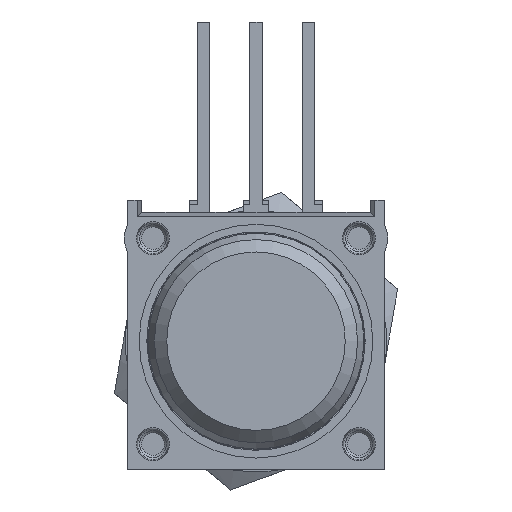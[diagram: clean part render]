
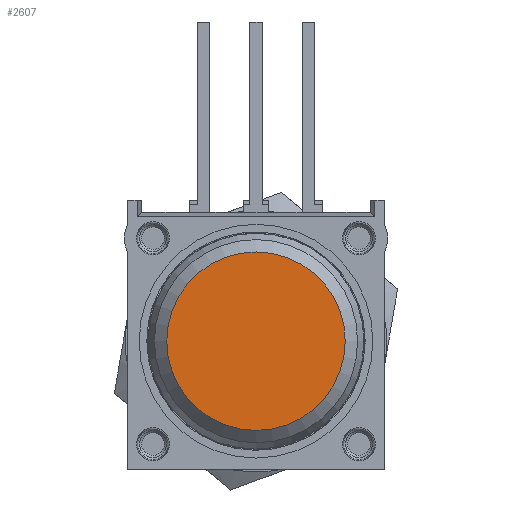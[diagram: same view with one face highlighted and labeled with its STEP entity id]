
A CAD part, left-side view. The second image highlights one B-rep face of the part: STEP entity #2607.
In plain terms, the highlighted planar face has unit normal (-1, 0, 0) as drawn and (0, 0, 1) by its records, which use the part's own axes.
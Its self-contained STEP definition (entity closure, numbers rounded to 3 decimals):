
#2607 = ADVANCED_FACE( '', ( #5212 ), #5213, .T. );
#5212 = FACE_OUTER_BOUND( '', #8808, .T. );
#5213 = PLANE( '', #8809 );
#8808 = EDGE_LOOP( '', ( #15310 ) );
#8809 = AXIS2_PLACEMENT_3D( '', #15311, #15312, #15313 );
#15310 = ORIENTED_EDGE( '', *, *, #18094, .T. );
#15311 = CARTESIAN_POINT( '', ( 0., 0., 1.4 ) );
#15312 = DIRECTION( '', ( 0., 0., 1. ) );
#15313 = DIRECTION( '', ( 1., 0., 0. ) );
#18094 = EDGE_CURVE( '', #21742, #21742, #21743, .T. );
#21742 = VERTEX_POINT( '', #27178 );
#21743 = CIRCLE( '', #27179, 4.334 );
#27178 = CARTESIAN_POINT( '', ( 4.334, 0., 1.4 ) );
#27179 = AXIS2_PLACEMENT_3D( '', #32781, #32782, #32783 );
#32781 = CARTESIAN_POINT( '', ( 0., 0., 1.4 ) );
#32782 = DIRECTION( '', ( 0., 0., 1. ) );
#32783 = DIRECTION( '', ( 1., 0., 0. ) );
